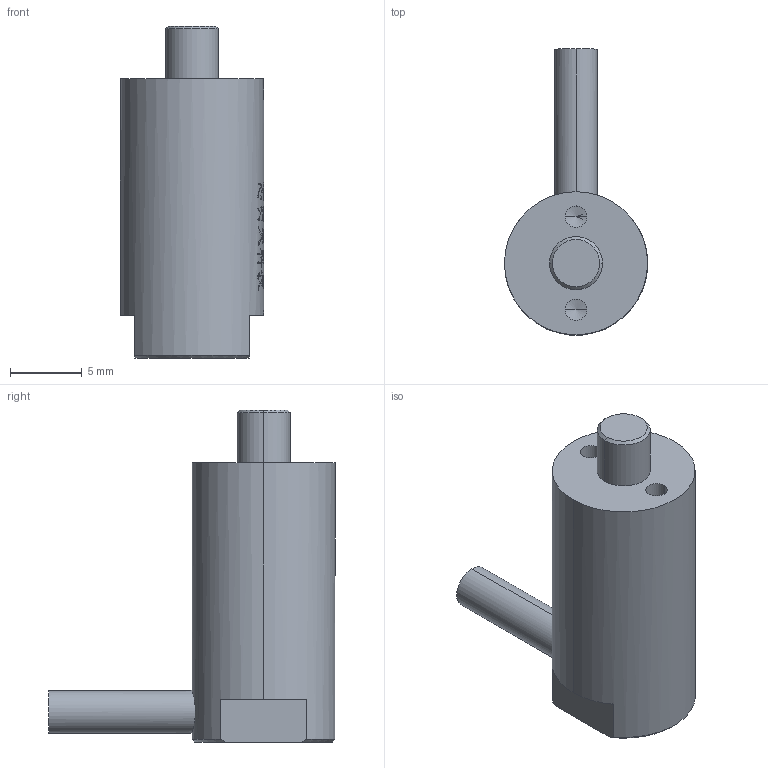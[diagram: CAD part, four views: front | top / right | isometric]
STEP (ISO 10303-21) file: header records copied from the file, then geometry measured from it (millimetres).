
FILE_DESCRIPTION (( 'STEP AP203' ), '1' );
FILE_NAME ('7VS10ƽͷ.STEP', '2024-12-10T03:43:12', ( 'daohangxitong.com' ), ( 'daohangxitong.com' ), 'SwSTEP 2.0', 'SolidWorks 2016', '' );
FILE_SCHEMA (( 'CONFIG_CONTROL_DESIGN' ));
Length unit declared in the file: millimetre
Products named in the file (1): 7VS10ƽͷ
Bounding box: 10 x 20 x 23.2 mm (x, y, z)
Volume: 1585.7 mm3; surface area: 967.4 mm2
Topology: 1 solids, 1 shells, 65 faces, 697 edges, 656 vertices
Faces by surface type: cylinder 44, cone 12, plane 9
Entity records: 9660 total; most frequent: CARTESIAN_POINT 5400, ORIENTED_EDGE 1382, EDGE_CURVE 691, VERTEX_POINT 656, B_SPLINE_CURVE_WITH_KNOTS 595, DIRECTION 281, AXIS2_PLACEMENT_3D 119, EDGE_LOOP 93
